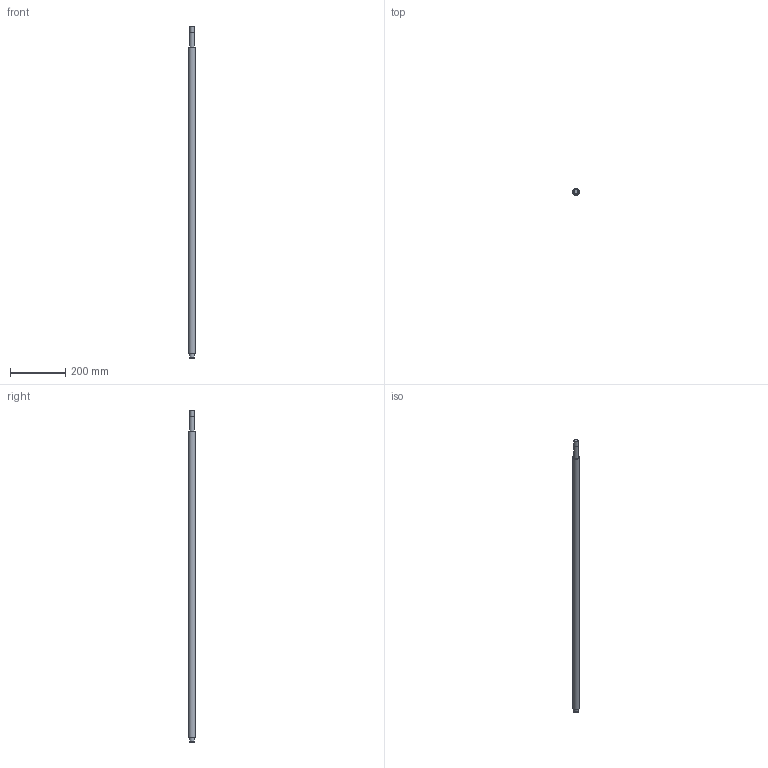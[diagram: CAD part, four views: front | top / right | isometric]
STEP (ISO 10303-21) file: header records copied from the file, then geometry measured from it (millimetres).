
FILE_DESCRIPTION(/* description */ (''),/* implementation_level */ '2;1');
FILE_NAME(/* name */ 'C:\Users\David Dillkötter\ownCloud\Kamp und Kötter\Artikel\_CAD-Dateien\CAD-Dateien-Shop\CAD-Dateien\Kugelumlaufspindel\2510\KUS2510x1200.stp',/* time_stamp */ '2020-09-03T09:47:36+02:00',/* author */ ('David Dillkötter'),/* organization */ (''),/* preprocessor_version */ 'ST-DEVELOPER v18.1',/* originating_system */ 'Autodesk Inventor 2021',/* authorisation */ '');
FILE_SCHEMA (('AUTOMOTIVE_DESIGN { 1 0 10303 214 3 1 1 }'));
Length unit declared in the file: millimetre
Products named in the file (1): KUS2510_Gewindespindel
Bounding box: 25 x 25 x 1200 mm (x, y, z)
Volume: 563585.7 mm3; surface area: 92784.2 mm2
Topology: 1 solids, 1 shells, 17 faces, 30 edges, 20 vertices
Faces by surface type: plane 7, cylinder 6, cone 4
Full cylindrical faces by diameter (mm): 15 x1, 16.2 x1, 17 x3, 25 x1
Entity records: 465 total; most frequent: DIRECTION 86, CARTESIAN_POINT 68, ORIENTED_EDGE 60, AXIS2_PLACEMENT_3D 38, EDGE_CURVE 30, EDGE_LOOP 22, CIRCLE 20, VERTEX_POINT 20
